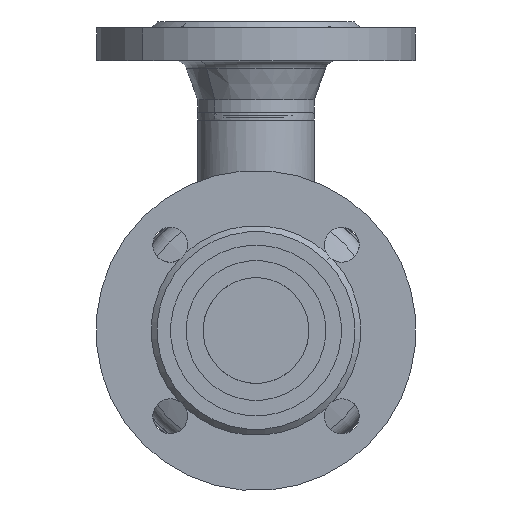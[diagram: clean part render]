
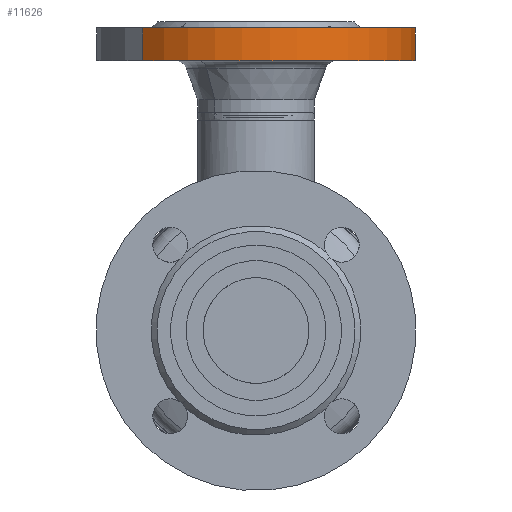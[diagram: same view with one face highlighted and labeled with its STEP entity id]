
A CAD part, front view. The second image highlights one B-rep face of the part: STEP entity #11626.
In plain terms, the highlighted cylindrical face has radius 82.5 mm (diameter 165 mm), a partial arc.
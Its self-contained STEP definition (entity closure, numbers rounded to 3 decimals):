
#498 = CIRCLE ( 'NONE', #499, 82.5 ) ;
#499 = AXIS2_PLACEMENT_3D ( 'NONE', #500, #501, #502 ) ;
#500 = CARTESIAN_POINT ( 'NONE',  ( 0., 20., 0. ) ) ;
#501 = DIRECTION ( 'NONE',  ( 0., 1., 0. ) ) ;
#502 = DIRECTION ( 'NONE',  ( -1., 0., 0. ) ) ;
#570 = EDGE_CURVE ( 'NONE', #11906, #9443, #7896, .T. ) ;
#1263 = ORIENTED_EDGE ( 'NONE', *, *, #570, .T. ) ;
#1726 = ORIENTED_EDGE ( 'NONE', *, *, #14175, .F. ) ;
#2965 = CARTESIAN_POINT ( 'NONE',  ( 82.5, 20., 0. ) ) ;
#3224 = EDGE_CURVE ( 'NONE', #9443, #9877, #11250, .T. ) ;
#3396 = LINE ( 'NONE', #3397, #3398 ) ;
#3397 = CARTESIAN_POINT ( 'NONE',  ( 82.5, 75., 0. ) ) ;
#3398 = VECTOR ( 'NONE', #3399, 1000. ) ;
#3399 = DIRECTION ( 'NONE',  ( 0., 1., 0. ) ) ;
#4595 = ORIENTED_EDGE ( 'NONE', *, *, #12299, .F. ) ;
#7013 = ORIENTED_EDGE ( 'NONE', *, *, #3224, .T. ) ;
#7078 = VERTEX_POINT ( 'NONE', #2965 ) ;
#7896 = CIRCLE ( 'NONE', #7899, 82.5 ) ;
#7899 = AXIS2_PLACEMENT_3D ( 'NONE', #7900, #7901, #7902 ) ;
#7900 = CARTESIAN_POINT ( 'NONE',  ( 0., 3., 0. ) ) ;
#7901 = DIRECTION ( 'NONE',  ( 0., 1., 0. ) ) ;
#7902 = DIRECTION ( 'NONE',  ( -1., 0., 0. ) ) ;
#9443 = VERTEX_POINT ( 'NONE', #11657 ) ;
#9877 = VERTEX_POINT ( 'NONE', #12109 ) ;
#11250 = LINE ( 'NONE', #11251, #11252 ) ;
#11251 = CARTESIAN_POINT ( 'NONE',  ( -82.5, 75., 0. ) ) ;
#11252 = VECTOR ( 'NONE', #11253, 1000. ) ;
#11253 = DIRECTION ( 'NONE',  ( 0., 1., 0. ) ) ;
#11626 = ADVANCED_FACE ( 'NONE', ( #14849 ), #14852, .T. ) ;
#11657 = CARTESIAN_POINT ( 'NONE',  ( -82.5, 3., 0. ) ) ;
#11906 = VERTEX_POINT ( 'NONE', #15099 ) ;
#11977 = EDGE_LOOP ( 'NONE', ( #1726, #1263, #7013, #4595 ) ) ;
#12109 = CARTESIAN_POINT ( 'NONE',  ( -82.5, 20., 0. ) ) ;
#12299 = EDGE_CURVE ( 'NONE', #7078, #9877, #498, .T. ) ;
#14175 = EDGE_CURVE ( 'NONE', #11906, #7078, #3396, .T. ) ;
#14849 = FACE_OUTER_BOUND ( 'NONE', #11977, .T. ) ;
#14852 = CYLINDRICAL_SURFACE ( 'NONE', #14853, 82.5 ) ;
#14853 = AXIS2_PLACEMENT_3D ( 'NONE', #14854, #14855, #14856 ) ;
#14854 = CARTESIAN_POINT ( 'NONE',  ( 0., 75., 0. ) ) ;
#14855 = DIRECTION ( 'NONE',  ( 0., 1., 0. ) ) ;
#14856 = DIRECTION ( 'NONE',  ( -1., 0., 0. ) ) ;
#15099 = CARTESIAN_POINT ( 'NONE',  ( 82.5, 3., 0. ) ) ;
